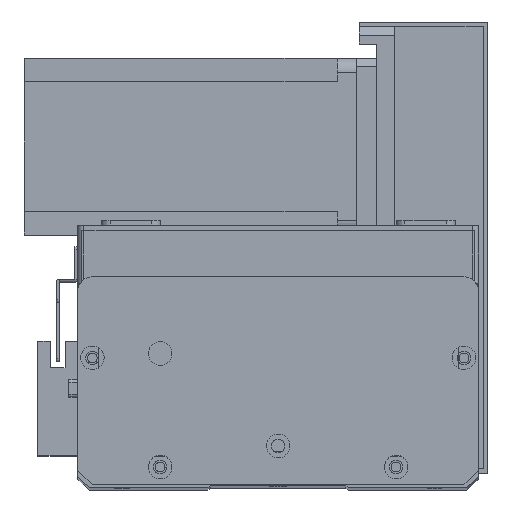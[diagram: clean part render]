
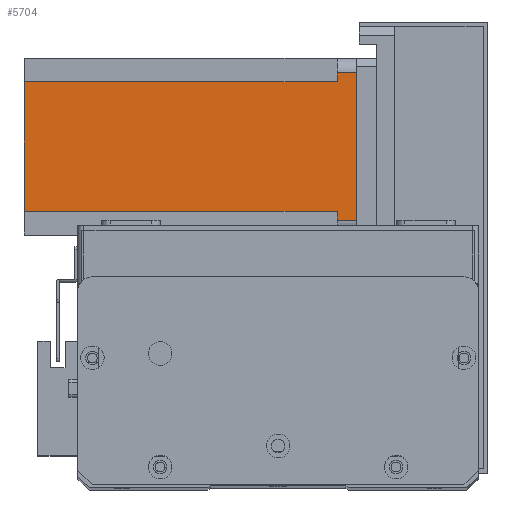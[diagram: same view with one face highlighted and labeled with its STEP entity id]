
A CAD part, top view. The second image highlights one B-rep face of the part: STEP entity #5704.
In plain terms, the highlighted planar face has unit normal (0, 0, 1) as drawn and (0, 1, 0) by its records, which use the part's own axes.
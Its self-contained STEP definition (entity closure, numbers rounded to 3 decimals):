
#295 = CARTESIAN_POINT ( 'NONE',  ( 8., 60., -112.5 ) ) ;
#574 = ORIENTED_EDGE ( 'NONE', *, *, #2845, .T. ) ;
#838 = EDGE_CURVE ( 'NONE', #15606, #3413, #6487, .T. ) ;
#1223 = VECTOR ( 'NONE', #12406, 1000. ) ;
#1793 = VERTEX_POINT ( 'NONE', #19889 ) ;
#2845 = EDGE_CURVE ( 'NONE', #18235, #10518, #27878, .T. ) ;
#3413 = VERTEX_POINT ( 'NONE', #12761 ) ;
#3743 = CARTESIAN_POINT ( 'NONE',  ( 55., 60., 0. ) ) ;
#4138 = LINE ( 'NONE', #14640, #21133 ) ;
#4150 = CARTESIAN_POINT ( 'NONE',  ( 52., 60., -6.5 ) ) ;
#4240 = CARTESIAN_POINT ( 'NONE',  ( 52., 60., -112.5 ) ) ;
#4843 = ORIENTED_EDGE ( 'NONE', *, *, #25362, .T. ) ;
#4858 = DIRECTION ( 'NONE',  ( 0., 0., -1. ) ) ;
#5686 = DIRECTION ( 'NONE',  ( 0., 0., -1. ) ) ;
#5704 = ADVANCED_FACE ( 'NONE', ( #6574 ), #7415, .T. ) ;
#6487 = LINE ( 'NONE', #19698, #11799 ) ;
#6574 = FACE_OUTER_BOUND ( 'NONE', #25006, .T. ) ;
#6618 = CARTESIAN_POINT ( 'NONE',  ( 5., 60., -6.5 ) ) ;
#7091 = CARTESIAN_POINT ( 'NONE',  ( 55., 60., -6.5 ) ) ;
#7239 = DIRECTION ( 'NONE',  ( 0., 0., 1. ) ) ;
#7380 = LINE ( 'NONE', #16808, #1223 ) ;
#7415 = PLANE ( 'NONE',  #16484 ) ;
#7460 = VERTEX_POINT ( 'NONE', #4240 ) ;
#7497 = VECTOR ( 'NONE', #14064, 1000. ) ;
#8911 = CARTESIAN_POINT ( 'NONE',  ( 0., 60., -112.5 ) ) ;
#9755 = CARTESIAN_POINT ( 'NONE',  ( 52., 60., -112.5 ) ) ;
#9949 = VERTEX_POINT ( 'NONE', #26464 ) ;
#10130 = DIRECTION ( 'NONE',  ( -1., 0., 0. ) ) ;
#10518 = VERTEX_POINT ( 'NONE', #7091 ) ;
#10545 = ORIENTED_EDGE ( 'NONE', *, *, #26256, .F. ) ;
#10819 = EDGE_CURVE ( 'NONE', #18235, #3413, #7380, .T. ) ;
#11501 = CARTESIAN_POINT ( 'NONE',  ( 52., 60., -6.5 ) ) ;
#11799 = VECTOR ( 'NONE', #19738, 1000. ) ;
#12406 = DIRECTION ( 'NONE',  ( -1., 0., 0. ) ) ;
#12761 = CARTESIAN_POINT ( 'NONE',  ( 5., 60., 0. ) ) ;
#13267 = VECTOR ( 'NONE', #10130, 1000. ) ;
#14064 = DIRECTION ( 'NONE',  ( 0., 0., 1. ) ) ;
#14115 = CARTESIAN_POINT ( 'NONE',  ( 55., 60., -112.5 ) ) ;
#14640 = CARTESIAN_POINT ( 'NONE',  ( 0., 60., -112.5 ) ) ;
#15606 = VERTEX_POINT ( 'NONE', #6618 ) ;
#15862 = ORIENTED_EDGE ( 'NONE', *, *, #27673, .T. ) ;
#16006 = ORIENTED_EDGE ( 'NONE', *, *, #23777, .F. ) ;
#16484 = AXIS2_PLACEMENT_3D ( 'NONE', #8911, #20468, #7239 ) ;
#16486 = VECTOR ( 'NONE', #26224, 1000. ) ;
#16642 = ORIENTED_EDGE ( 'NONE', *, *, #838, .T. ) ;
#16732 = DIRECTION ( 'NONE',  ( -1., 0., 0. ) ) ;
#16808 = CARTESIAN_POINT ( 'NONE',  ( 0., 60., 0. ) ) ;
#18235 = VERTEX_POINT ( 'NONE', #3743 ) ;
#18981 = LINE ( 'NONE', #25197, #13267 ) ;
#19698 = CARTESIAN_POINT ( 'NONE',  ( 5., 60., -112.5 ) ) ;
#19738 = DIRECTION ( 'NONE',  ( 0., 0., 1. ) ) ;
#19832 = LINE ( 'NONE', #9755, #7497 ) ;
#19889 = CARTESIAN_POINT ( 'NONE',  ( 8., 60., -6.5 ) ) ;
#20468 = DIRECTION ( 'NONE',  ( 0., 1., 0. ) ) ;
#20470 = ORIENTED_EDGE ( 'NONE', *, *, #24626, .F. ) ;
#21133 = VECTOR ( 'NONE', #16732, 1000. ) ;
#21259 = VERTEX_POINT ( 'NONE', #11501 ) ;
#21479 = VECTOR ( 'NONE', #5686, 1000. ) ;
#22243 = LINE ( 'NONE', #4150, #16486 ) ;
#22437 = VECTOR ( 'NONE', #4858, 1000. ) ;
#23111 = LINE ( 'NONE', #295, #22437 ) ;
#23777 = EDGE_CURVE ( 'NONE', #21259, #10518, #22243, .T. ) ;
#24163 = ORIENTED_EDGE ( 'NONE', *, *, #10819, .F. ) ;
#24626 = EDGE_CURVE ( 'NONE', #7460, #21259, #19832, .T. ) ;
#25006 = EDGE_LOOP ( 'NONE', ( #24163, #574, #16006, #20470, #4843, #10545, #15862, #16642 ) ) ;
#25197 = CARTESIAN_POINT ( 'NONE',  ( 8., 60., -6.5 ) ) ;
#25362 = EDGE_CURVE ( 'NONE', #7460, #9949, #4138, .T. ) ;
#26224 = DIRECTION ( 'NONE',  ( 1., 0., 0. ) ) ;
#26256 = EDGE_CURVE ( 'NONE', #1793, #9949, #23111, .T. ) ;
#26464 = CARTESIAN_POINT ( 'NONE',  ( 8., 60., -112.5 ) ) ;
#27673 = EDGE_CURVE ( 'NONE', #1793, #15606, #18981, .T. ) ;
#27878 = LINE ( 'NONE', #14115, #21479 ) ;
